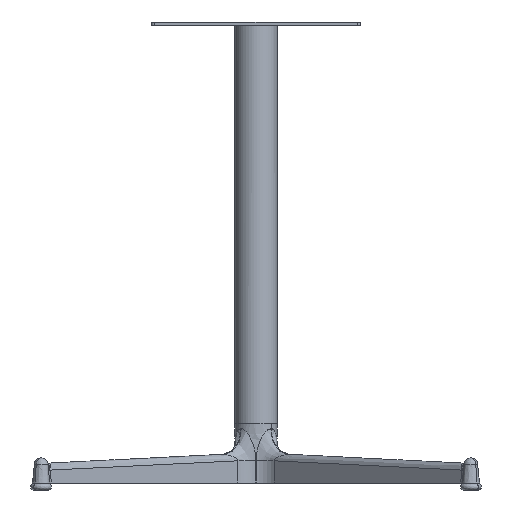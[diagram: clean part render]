
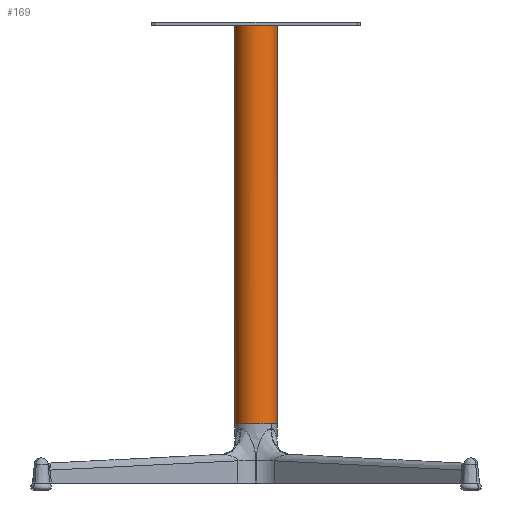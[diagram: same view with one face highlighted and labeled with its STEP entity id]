
A CAD part, front view. The second image highlights one B-rep face of the part: STEP entity #169.
In plain terms, the highlighted free-form (B-spline) face has degree [2, 1] with [9, 2] control points.
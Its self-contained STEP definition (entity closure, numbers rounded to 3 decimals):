
#169=ADVANCED_FACE('',(#306),#2206,.T.);
#306=FACE_OUTER_BOUND('',#465,.T.);
#465=EDGE_LOOP('',(#1140,#1141,#1142,#1143,#1144));
#1140=ORIENTED_EDGE('',*,*,#1486,.F.);
#1141=ORIENTED_EDGE('',*,*,#1489,.T.);
#1142=ORIENTED_EDGE('',*,*,#1500,.F.);
#1143=ORIENTED_EDGE('',*,*,#1487,.F.);
#1144=ORIENTED_EDGE('',*,*,#1488,.T.);
#1486=EDGE_CURVE('',#2062,#2061,#1838,.T.);
#1487=EDGE_CURVE('',#2068,#2067,#1839,.T.);
#1488=EDGE_CURVE('',#2068,#2061,#1703,.T.);
#1489=EDGE_CURVE('',#2062,#2070,#1704,.T.);
#1500=EDGE_CURVE('',#2067,#2070,#1846,.T.);
#1703=B_SPLINE_CURVE_WITH_KNOTS('',1,(#7987,#7988),.UNSPECIFIED.,.F.,.F.,
(2,2),(0.,570.),.UNSPECIFIED.);
#1704=B_SPLINE_CURVE_WITH_KNOTS('',1,(#7989,#7990),.UNSPECIFIED.,.F.,.F.,
(2,2),(57.12,627.12),.UNSPECIFIED.);
#1838=(
BOUNDED_CURVE()
B_SPLINE_CURVE(2,(#7977,#7978,#7979,#7980,#7981),.UNSPECIFIED.,.F.,.F.)
B_SPLINE_CURVE_WITH_KNOTS((3,2,3),(-121.,-60.5,
0.),.UNSPECIFIED.)
CURVE()
GEOMETRIC_REPRESENTATION_ITEM()
RATIONAL_B_SPLINE_CURVE((1.,0.707,1.,0.707,1.))
REPRESENTATION_ITEM('')
);
#1839=(
BOUNDED_CURVE()
B_SPLINE_CURVE(2,(#7982,#7983,#7984,#7985,#7986),.UNSPECIFIED.,.F.,.F.)
B_SPLINE_CURVE_WITH_KNOTS((3,2,3),(-121.,-60.5,
-30.25),.UNSPECIFIED.)
CURVE()
GEOMETRIC_REPRESENTATION_ITEM()
RATIONAL_B_SPLINE_CURVE((1.,0.707,1.,0.924,1.))
REPRESENTATION_ITEM('')
);
#1846=(
BOUNDED_CURVE()
B_SPLINE_CURVE(2,(#8023,#8024,#8025),.UNSPECIFIED.,.F.,.F.)
B_SPLINE_CURVE_WITH_KNOTS((3,3),(-30.25,0.),.UNSPECIFIED.)
CURVE()
GEOMETRIC_REPRESENTATION_ITEM()
RATIONAL_B_SPLINE_CURVE((1.,0.924,1.))
REPRESENTATION_ITEM('')
);
#2061=VERTEX_POINT('',#6104);
#2062=VERTEX_POINT('',#6105);
#2067=VERTEX_POINT('',#6110);
#2068=VERTEX_POINT('',#6111);
#2070=VERTEX_POINT('',#6113);
#2206=(
BOUNDED_SURFACE()
B_SPLINE_SURFACE(2,1,((#5858,#5859),(#5860,#5861),(#5862,#5863),(#5864,
#5865),(#5866,#5867),(#5868,#5869),(#5870,#5871),(#5872,#5873),(#5874,#5875)),
 .UNSPECIFIED.,.T.,.F.,.F.)
B_SPLINE_SURFACE_WITH_KNOTS((3,2,2,2,3),(2,2),(0.,47.517,95.033,
142.55,190.066),(0.,684.24),.UNSPECIFIED.)
GEOMETRIC_REPRESENTATION_ITEM()
RATIONAL_B_SPLINE_SURFACE(((1.,1.),(0.707,0.707),
(1.,1.),(0.707,0.707),(1.,1.),(0.707,
0.707),(1.,1.),(0.707,0.707),(1.,1.)))
REPRESENTATION_ITEM('')
SURFACE()
);
#5858=CARTESIAN_POINT('',(-30.25,0.,722.12));
#5859=CARTESIAN_POINT('',(-30.25,0.,37.88));
#5860=CARTESIAN_POINT('',(-30.25,30.25,722.12));
#5861=CARTESIAN_POINT('',(-30.25,30.25,37.88));
#5862=CARTESIAN_POINT('',(0.,30.25,722.12));
#5863=CARTESIAN_POINT('',(0.,30.25,37.88));
#5864=CARTESIAN_POINT('',(30.25,30.25,722.12));
#5865=CARTESIAN_POINT('',(30.25,30.25,37.88));
#5866=CARTESIAN_POINT('',(30.25,0.,722.12));
#5867=CARTESIAN_POINT('',(30.25,0.,37.88));
#5868=CARTESIAN_POINT('',(30.25,-30.25,722.12));
#5869=CARTESIAN_POINT('',(30.25,-30.25,37.88));
#5870=CARTESIAN_POINT('',(0.,-30.25,722.12));
#5871=CARTESIAN_POINT('',(0.,-30.25,37.88));
#5872=CARTESIAN_POINT('',(-30.25,-30.25,722.12));
#5873=CARTESIAN_POINT('',(-30.25,-30.25,37.88));
#5874=CARTESIAN_POINT('',(-30.25,0.,722.12));
#5875=CARTESIAN_POINT('',(-30.25,0.,37.88));
#6104=CARTESIAN_POINT('',(30.25,0.,665.));
#6105=CARTESIAN_POINT('',(-30.25,0.,665.));
#6110=CARTESIAN_POINT('',(-21.39,-21.39,95.));
#6111=CARTESIAN_POINT('',(30.25,0.,95.));
#6113=CARTESIAN_POINT('',(-30.25,0.,95.));
#7977=CARTESIAN_POINT('',(-30.25,0.,665.));
#7978=CARTESIAN_POINT('',(-30.25,-30.25,665.));
#7979=CARTESIAN_POINT('',(0.,-30.25,665.));
#7980=CARTESIAN_POINT('',(30.25,-30.25,665.));
#7981=CARTESIAN_POINT('',(30.25,0.,665.));
#7982=CARTESIAN_POINT('',(30.25,0.,95.));
#7983=CARTESIAN_POINT('',(30.25,-30.25,95.));
#7984=CARTESIAN_POINT('',(0.,-30.25,95.));
#7985=CARTESIAN_POINT('',(-12.53,-30.25,95.));
#7986=CARTESIAN_POINT('',(-21.39,-21.39,95.));
#7987=CARTESIAN_POINT('',(30.25,0.,95.));
#7988=CARTESIAN_POINT('',(30.25,0.,665.));
#7989=CARTESIAN_POINT('',(-30.25,0.,665.));
#7990=CARTESIAN_POINT('',(-30.25,0.,95.));
#8023=CARTESIAN_POINT('',(-21.39,-21.39,95.));
#8024=CARTESIAN_POINT('',(-30.25,-12.53,95.));
#8025=CARTESIAN_POINT('',(-30.25,0.,95.));
